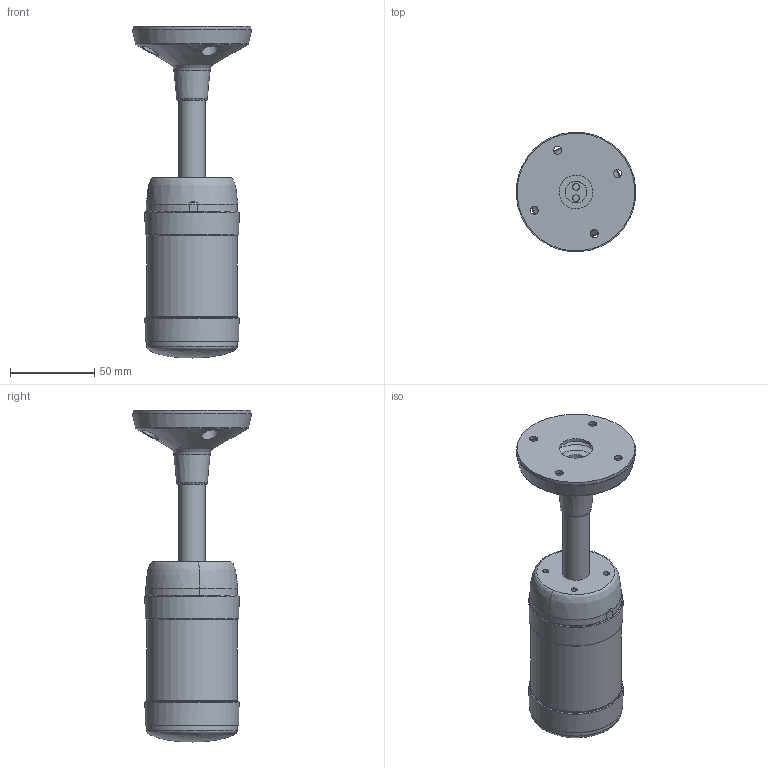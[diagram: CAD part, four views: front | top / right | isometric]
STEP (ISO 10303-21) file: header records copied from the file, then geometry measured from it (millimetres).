
FILE_DESCRIPTION (( 'STEP AP203' ), '1' );
FILE_NAME ('BR 50-S100-1-Stage.STEP', '2018-09-24T10:05:41', ( '' ), ( '' ), 'SwSTEP 2.0', 'SolidWorks 2017', '' );
FILE_SCHEMA (( 'CONFIG_CONTROL_DESIGN' ));
Length unit declared in the file: millimetre
Products named in the file (2): BR 50-S100-1-Stage
Bounding box: 70.86 x 70.86 x 196.9 mm (x, y, z)
Surface area: 112291 mm2 (no closed solid volume)
Topology: 0 solids, 11 shells, 1056 faces, 2961 edges, 1935 vertices
Faces by surface type: plane 710, bspline 154, cylinder 132, cone 51, torus 6, sphere 3
Full cylindrical faces by diameter (mm): 4.8 x4, 5.5 x4, 10 x4, 12.8 x1, 13 x1, 14 x1, 15.8 x2, 16 x1, 20 x1, 45 x1, 48.5 x3, 49 x2, 51 x2, 52 x4, 54 x3, 70 x1
Entity records: 35108 total; most frequent: CARTESIAN_POINT 9348, ORIENTED_EDGE 5629, DIRECTION 4866, EDGE_CURVE 2847, VERTEX_POINT 1897, VECTOR 1866, LINE 1866, AXIS2_PLACEMENT_3D 1500
